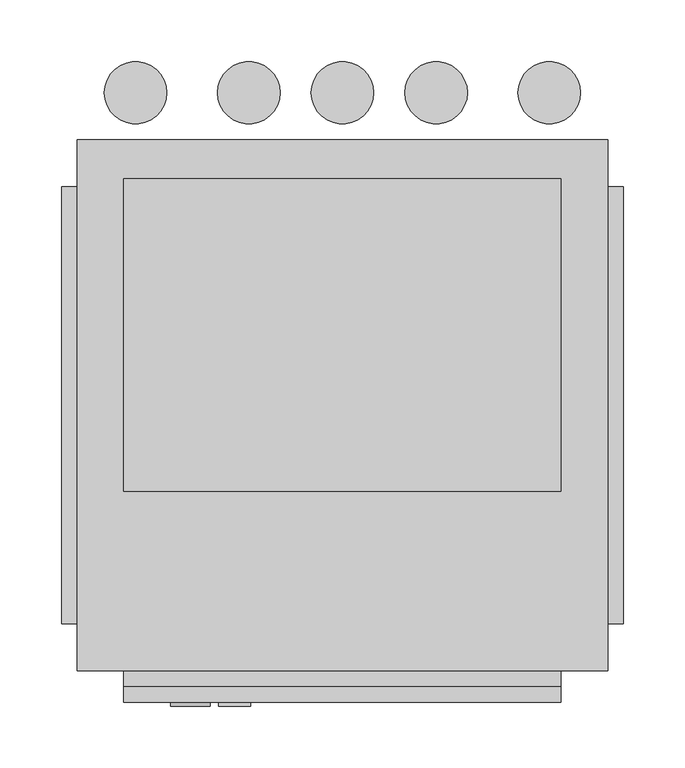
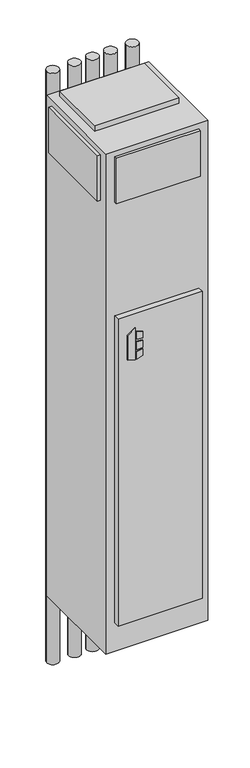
"""IFC4 building model written with IfcOpenShell, lengths in millimetres: proxy geometry, Concealed_Modular_Fan_Coil_Unit_-_MPY_-_IEC_-_4-Pipe_-_WithRisers_2022 : Size 03 - 277v/60Hz/1Ph - 4/1 Coil."""

from ifc_helpers import new_model, si_unit, point, frame, frame_2d, origin, origin_with_axes, place, context, project, spatial, polyline, circle_curve, trimmed, segment, composite_curve, outline, extrude, source, transform, mapped, element, save


def mechanical_equipment_c4429fdb(model_context):
    return source(origin(), model_context, "Body", "SweptSolid", [
        extrude(outline(polyline([(1305.3480703, 228.6), (1295.4, 260.7733866), (1437.5709244, 260.7733866), (1414.5489183, 228.6), (1305.3480703, 228.6)])), frame((0.0, -215.9, 0.0), z_axis=(0.0, 1.0, 0.0), x_axis=(0.0, 0.0, 1.0)), (0.0, 0.0, 1.0), 3.175),
        extrude(outline(polyline([(1384.3473557, 267.5317195), (1381.1449632, 293.6131138), (1410.3738042, 293.6131138), (1418.4382193, 267.5317195), (1384.3473557, 267.5317195)])), frame((0.0, -215.9, 0.0), z_axis=(0.0, 1.0, 0.0), x_axis=(0.0, 0.0, 1.0)), (0.0, 0.0, 1.0), 3.175),
        extrude(outline(polyline([(1332.4838288, 293.6131138), (1328.8183279, 267.5317195), (1295.4, 267.5317195), (1304.0342372, 293.6131138), (1332.4838288, 293.6131138)])), frame((0.0, -215.9, 0.0), z_axis=(0.0, 1.0, 0.0), x_axis=(0.0, 0.0, 1.0)), (0.0, 0.0, 1.0), 3.175),
        extrude(outline(polyline([(1371.7989903, 293.6131138), (1374.0808166, 267.5317195), (1338.1432681, 267.5317195), (1340.8845331, 293.6131138), (1371.7989903, 293.6131138)])), frame((0.0, -215.9, 0.0), z_axis=(0.0, 1.0, 0.0), x_axis=(0.0, 0.0, 1.0)), (0.0, 0.0, 1.0), 3.175),
        extrude(outline(composite_curve([segment(trimmed(circle_curve(frame_2d((368.3, 282.575)), 25.4), [point((342.9, 282.575))], [point((393.7, 282.575))], False, "CARTESIAN"), True, "CONTINUOUS"), segment(trimmed(circle_curve(frame_2d((368.3, 282.575)), 25.4), [point((393.7, 282.575))], [point((342.9, 282.575))], False, "CARTESIAN"), True, "CONTINUOUS")], self_intersect=False)), frame((0.0, 0.0, -330.2), z_axis=(0.0, 0.0, 1.0), x_axis=(1.0, 0.0, 0.0)), (0.0, 0.0, 1.0), 2641.6),
        extrude(outline(composite_curve([segment(trimmed(circle_curve(frame_2d((444.5, 282.575)), 25.4), [point((419.1, 282.575))], [point((469.9, 282.575))], False, "CARTESIAN"), True, "CONTINUOUS"), segment(trimmed(circle_curve(frame_2d((444.5, 282.575)), 25.4), [point((469.9, 282.575))], [point((419.1, 282.575))], False, "CARTESIAN"), True, "CONTINUOUS")], self_intersect=False)), frame((0.0, 0.0, -330.2), z_axis=(0.0, 0.0, 1.0), x_axis=(1.0, 0.0, 0.0)), (0.0, 0.0, 1.0), 2641.6),
        extrude(outline(composite_curve([segment(trimmed(circle_curve(frame_2d((536.575, 282.575)), 25.4), [point((511.175, 282.575))], [point((561.975, 282.575))], False, "CARTESIAN"), True, "CONTINUOUS"), segment(trimmed(circle_curve(frame_2d((536.575, 282.575)), 25.4), [point((561.975, 282.575))], [point((511.175, 282.575))], False, "CARTESIAN"), True, "CONTINUOUS")], self_intersect=False)), frame((0.0, 0.0, -330.2), z_axis=(0.0, 0.0, 1.0), x_axis=(1.0, 0.0, 0.0)), (0.0, 0.0, 1.0), 2641.6),
        extrude(outline(composite_curve([segment(trimmed(circle_curve(frame_2d((292.1, 282.575)), 25.4), [point((266.7, 282.575))], [point((317.5, 282.575))], False, "CARTESIAN"), True, "CONTINUOUS"), segment(trimmed(circle_curve(frame_2d((292.1, 282.575)), 25.4), [point((317.5, 282.575))], [point((266.7, 282.575))], False, "CARTESIAN"), True, "CONTINUOUS")], self_intersect=False)), frame((0.0, 0.0, -330.2), z_axis=(0.0, 0.0, 1.0), x_axis=(1.0, 0.0, 0.0)), (0.0, 0.0, 1.0), 2641.6),
        extrude(outline(composite_curve([segment(trimmed(circle_curve(frame_2d((200.025, 282.575)), 25.4), [point((174.625, 282.575))], [point((225.425, 282.575))], False, "CARTESIAN"), True, "CONTINUOUS"), segment(trimmed(circle_curve(frame_2d((200.025, 282.575)), 25.4), [point((225.425, 282.575))], [point((174.625, 282.575))], False, "CARTESIAN"), True, "CONTINUOUS")], self_intersect=False)), frame((0.0, 0.0, -330.2), z_axis=(0.0, 0.0, 1.0), x_axis=(1.0, 0.0, 0.0)), (0.0, 0.0, 1.0), 2641.6),
        extrude(outline(polyline([(546.1, 212.725), (546.1, -41.275), (190.5, -41.275), (190.5, 212.725), (546.1, 212.725)])), frame((0.0, 0.0, 2235.2), z_axis=(0.0, 0.0, 1.0), x_axis=(1.0, 0.0, 0.0)), (0.0, 0.0, 1.0), 25.4),
        extrude(outline(polyline([(139.7, -149.225), (139.7, 206.375), (152.4, 206.375), (152.4, -149.225), (139.7, -149.225)])), frame((0.0, 0.0, 2006.6), z_axis=(0.0, 0.0, 1.0), x_axis=(1.0, 0.0, 0.0)), (0.0, 0.0, 1.0), 203.2),
        extrude(outline(polyline([(596.9, 206.375), (596.9, -149.225), (584.2, -149.225), (584.2, 206.375), (596.9, 206.375)])), frame((0.0, 0.0, 2006.6), z_axis=(0.0, 0.0, 1.0), x_axis=(1.0, 0.0, 0.0)), (0.0, 0.0, 1.0), 203.2),
        extrude(outline(polyline([(546.1, -200.025), (190.5, -200.025), (190.5, -187.325), (546.1, -187.325), (546.1, -200.025)])), frame((0.0, 0.0, 2006.6), z_axis=(0.0, 0.0, 1.0), x_axis=(1.0, 0.0, 0.0)), (0.0, 0.0, 1.0), 203.2),
        extrude(outline(polyline([(546.1, -212.725), (190.5, -212.725), (190.5, -187.325), (546.1, -187.325), (546.1, -212.725)])), frame((0.0, 0.0, 127.0), z_axis=(0.0, 0.0, 1.0), x_axis=(1.0, 0.0, 0.0)), (0.0, 0.0, 1.0), 1371.6),
        extrude(outline(polyline([(584.2, 244.475), (584.2, -187.325), (152.4, -187.325), (152.4, 244.475), (584.2, 244.475)])), origin_with_axes(), (0.0, 0.0, 1.0), 2235.2),
    ])


if __name__ == "__main__":
    model = new_model("IFC4")
    model_context = context("Model", 3, world=origin())
    ifc_project = project(units=[si_unit("LENGTHUNIT", "METRE", prefix="MILLI")], contexts=[model_context])
    site = spatial("IfcSite", under=ifc_project)
    building = spatial("IfcBuilding", under=site)
    placement = place(None, origin())
    mechanical_equipment_shape = mechanical_equipment_c4429fdb(model_context)
    element("IfcBuildingElementProxy", 1, Name="Concealed_Modular_Fan_Coil_Unit_-_MPY_-_IEC_-_4-Pipe_-_WithRisers_2022 : Size 03 - 277v/60Hz/1Ph - 4/1 Coil", ObjectType="Concealed_Modular_Fan_Coil_Unit_-_MPY_-_IEC_-_4-Pipe_-_WithRisers_2022 : Size 03 - 277v/60Hz/1Ph - 4/1 Coil", at=placement, inside=building, context=model_context, shape_type="MappedRepresentation", body=[
        mapped(mechanical_equipment_shape, transform((0.0, 0.0, 0.0), x_axis=(1.0, 0.0, 0.0), y_axis=(0.0, 1.0, 0.0), z_axis=(0.0, 0.0, 1.0))),
    ])
    save(model, "model.ifc")
